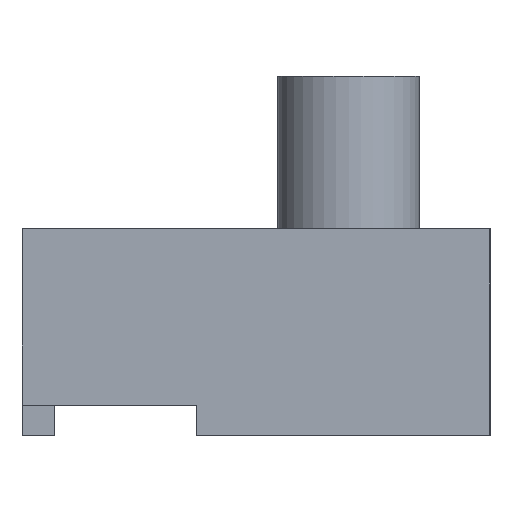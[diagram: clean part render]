
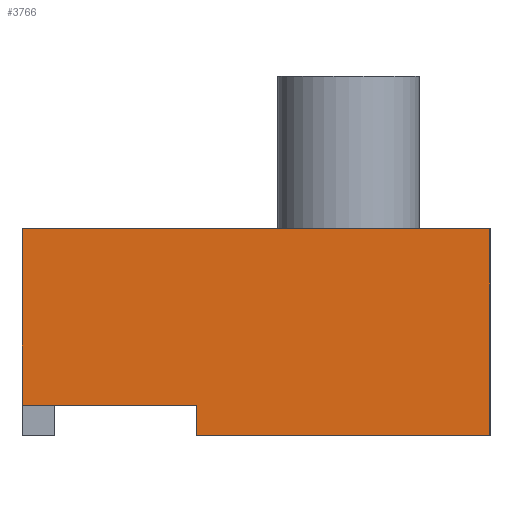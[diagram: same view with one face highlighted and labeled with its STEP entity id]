
A CAD part, left-side view. The second image highlights one B-rep face of the part: STEP entity #3766.
In plain terms, the highlighted planar face has unit normal (-1, 0, 0).
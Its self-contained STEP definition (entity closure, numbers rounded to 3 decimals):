
#3722=AXIS2_PLACEMENT_3D('Plane Axis2P3D',#3719,#3720,#3721) ;
#674=CARTESIAN_POINT('Vertex',(-3.25,-6.5,1.5)) ;
#677=CARTESIAN_POINT('Line Origine',(-3.25,-6.5,-3.25)) ;
#681=CARTESIAN_POINT('Vertex',(-3.25,-6.5,-8.)) ;
#3471=CARTESIAN_POINT('Vertex',(-3.25,0.,1.5)) ;
#3474=CARTESIAN_POINT('Line Origine',(-3.25,-3.25,1.5)) ;
#3719=CARTESIAN_POINT('Axis2P3D Location',(-3.25,-6.5,-6.6)) ;
#3724=CARTESIAN_POINT('Line Origine',(-3.25,11.,-6.6)) ;
#3728=CARTESIAN_POINT('Vertex',(-3.25,7.,-6.6)) ;
#3730=CARTESIAN_POINT('Vertex',(-3.25,15.,-6.6)) ;
#3733=CARTESIAN_POINT('Line Origine',(-3.25,7.,-7.3)) ;
#3737=CARTESIAN_POINT('Vertex',(-3.25,7.,-8.)) ;
#3740=CARTESIAN_POINT('Line Origine',(-3.25,0.25,-8.)) ;
#3745=CARTESIAN_POINT('Line Origine',(-3.25,7.5,1.5)) ;
#3749=CARTESIAN_POINT('Vertex',(-3.25,15.,1.5)) ;
#3752=CARTESIAN_POINT('Line Origine',(-3.25,15.,-2.55)) ;
#678=DIRECTION('Vector Direction',(0.,0.,1.)) ;
#3475=DIRECTION('Vector Direction',(0.,-1.,0.)) ;
#3720=DIRECTION('Axis2P3D Direction',(-1.,0.,0.)) ;
#3721=DIRECTION('Axis2P3D XDirection',(0.,1.,0.)) ;
#3725=DIRECTION('Vector Direction',(0.,1.,0.)) ;
#3734=DIRECTION('Vector Direction',(0.,0.,1.)) ;
#3741=DIRECTION('Vector Direction',(0.,-1.,0.)) ;
#3746=DIRECTION('Vector Direction',(0.,-1.,0.)) ;
#3753=DIRECTION('Vector Direction',(0.,0.,1.)) ;
#679=VECTOR('Line Direction',#678,1.) ;
#3476=VECTOR('Line Direction',#3475,1.) ;
#3726=VECTOR('Line Direction',#3725,1.) ;
#3735=VECTOR('Line Direction',#3734,1.) ;
#3742=VECTOR('Line Direction',#3741,1.) ;
#3747=VECTOR('Line Direction',#3746,1.) ;
#3754=VECTOR('Line Direction',#3753,1.) ;
#3758=ORIENTED_EDGE('',*,*,#3732,.F.) ;
#3759=ORIENTED_EDGE('',*,*,#3739,.F.) ;
#3760=ORIENTED_EDGE('',*,*,#3744,.T.) ;
#3761=ORIENTED_EDGE('',*,*,#683,.T.) ;
#3762=ORIENTED_EDGE('',*,*,#3478,.F.) ;
#3763=ORIENTED_EDGE('',*,*,#3751,.F.) ;
#3764=ORIENTED_EDGE('',*,*,#3756,.F.) ;
#3766=ADVANCED_FACE('Solid',(#3765),#3723,.T.) ;
#683=EDGE_CURVE('',#682,#675,#680,.T.) ;
#3478=EDGE_CURVE('',#3472,#675,#3477,.T.) ;
#3732=EDGE_CURVE('',#3729,#3731,#3727,.T.) ;
#3739=EDGE_CURVE('',#3738,#3729,#3736,.T.) ;
#3744=EDGE_CURVE('',#3738,#682,#3743,.T.) ;
#3751=EDGE_CURVE('',#3750,#3472,#3748,.T.) ;
#3756=EDGE_CURVE('',#3731,#3750,#3755,.T.) ;
#3757=EDGE_LOOP('',(#3758,#3759,#3760,#3761,#3762,#3763,#3764)) ;
#3765=FACE_OUTER_BOUND('',#3757,.T.) ;
#680=LINE('Line',#677,#679) ;
#3477=LINE('Line',#3474,#3476) ;
#3727=LINE('Line',#3724,#3726) ;
#3736=LINE('Line',#3733,#3735) ;
#3743=LINE('Line',#3740,#3742) ;
#3748=LINE('Line',#3745,#3747) ;
#3755=LINE('Line',#3752,#3754) ;
#3723=PLANE('',#3722) ;
#675=VERTEX_POINT('',#674) ;
#682=VERTEX_POINT('',#681) ;
#3472=VERTEX_POINT('',#3471) ;
#3729=VERTEX_POINT('',#3728) ;
#3731=VERTEX_POINT('',#3730) ;
#3738=VERTEX_POINT('',#3737) ;
#3750=VERTEX_POINT('',#3749) ;
